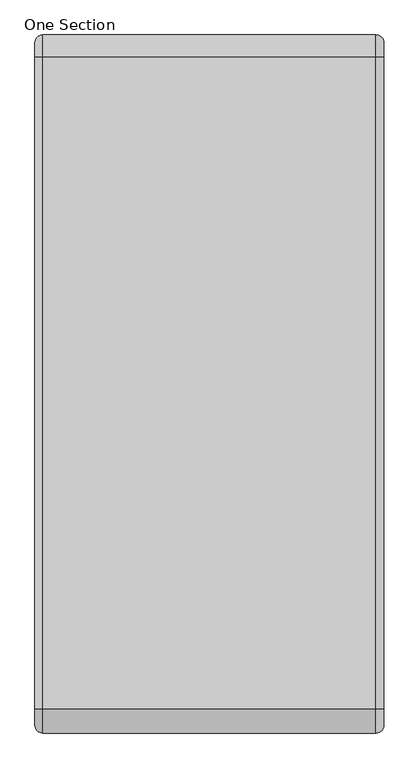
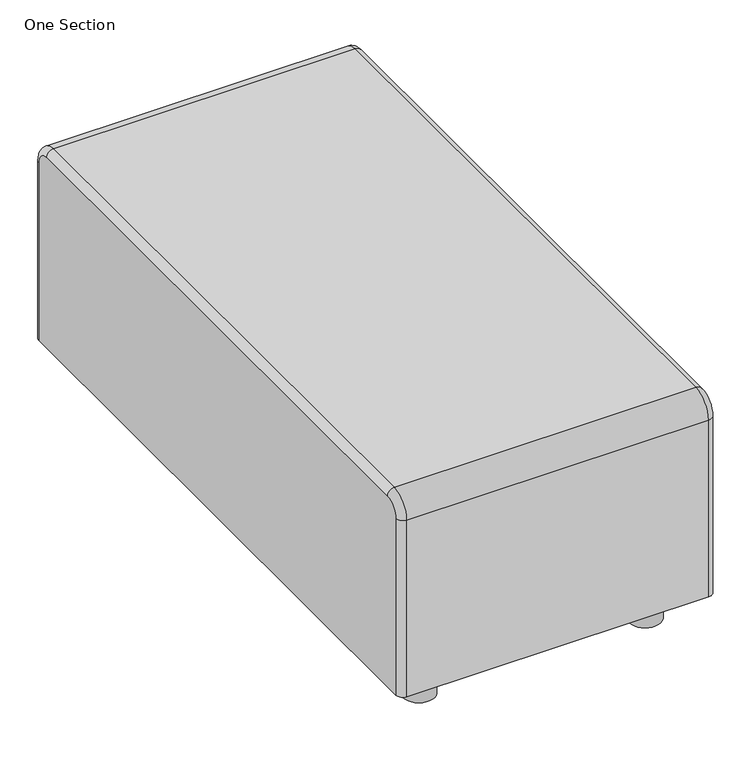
"""IFC4 building model written with IfcOpenShell, lengths in millimetres: furniture geometry, Coalesse_AM_Seating_Sofa_Await_ConnectorBench : One Section."""

import ifcopenshell
import ifcopenshell.guid

model = None  # the IFC model being written
_history = None  # IfcOwnerHistory: only IFC2X3 demands one
_inside = {}  # id of a spatial element -> (the spatial element, [elements in it])
_under = {}  # id of a project, library or spatial element -> (it, [spatial elements below it])
_declared = {}  # id of a project -> (the project, [libraries it declares])
_typed = {}  # id of a type object -> (the type object, [elements of that type])
_made_of = {}  # id of a material, layer set ... -> (it, [elements and type objects made of it])


def new_model(schema):
    """Start an empty IFC model of exactly this schema.

    Asked for "IFC4X3", IfcOpenShell would pick the latest addendum, in which some entities
    have other attributes; the version numbers below select the first issue.
    IFC2X3 requires an IfcOwnerHistory on every rooted entity: one is made here for all.
    """
    global model, _history
    if schema == "IFC4X3":
        model = ifcopenshell.file(schema_version=(4, 3, 0, 0))
    else:
        model = ifcopenshell.file(schema=schema)
    _inside.clear()
    _under.clear()
    _declared.clear()
    _typed.clear()
    _made_of.clear()
    _history = None
    if model.schema == "IFC2X3":
        org = make("IfcOrganization", Name="unknown")
        user = make(
            "IfcPersonAndOrganization",
            ThePerson=make("IfcPerson", FamilyName="unknown"),
            TheOrganization=org,
        )
        app = make(
            "IfcApplication",
            ApplicationDeveloper=org,
            Version="unknown",
            ApplicationFullName="unknown",
            ApplicationIdentifier="unknown",
        )
        _history = make(
            "IfcOwnerHistory",
            OwningUser=user,
            OwningApplication=app,
            ChangeAction="ADDED",
            CreationDate=0,
        )
    return model


def make(cls, **values):
    """One entity of the class cls with the attributes given. An attribute that is None is left unset."""
    return model.create_entity(
        cls, **{name: value for name, value in values.items() if value is not None}
    )


def rooted(cls, **values):
    """An entity with a GlobalId (a new one), such as an element, a storey or a relation."""
    return make(cls, GlobalId=ifcopenshell.guid.new(), OwnerHistory=_history, **values)


def si_unit(unit_type, name, prefix=None):
    """IfcSIUnit, for example si_unit("LENGTHUNIT", "METRE", prefix="MILLI")."""
    return make("IfcSIUnit", UnitType=unit_type, Prefix=prefix, Name=name)


def assignment(units):
    """IfcUnitAssignment: the units of a project."""
    return None if units is None else make("IfcUnitAssignment", Units=units)


def point(xyz):
    """IfcCartesianPoint."""
    return None if xyz is None else make("IfcCartesianPoint", Coordinates=xyz)


def direction(xyz):
    """IfcDirection."""
    return None if xyz is None else make("IfcDirection", DirectionRatios=xyz)


def frame(location, z_axis=None, x_axis=None):
    """IfcAxis2Placement3D, a coordinate frame: its origin and axes. An axis left out is left unset."""
    return make(
        "IfcAxis2Placement3D",
        Location=point(location),
        Axis=direction(z_axis),
        RefDirection=direction(x_axis),
    )


def frame_2d(location, x_axis=None):
    """IfcAxis2Placement2D, a coordinate frame in the plane: its origin and x axis."""
    return make(
        "IfcAxis2Placement2D", Location=point(location), RefDirection=direction(x_axis)
    )


def origin():
    """The frame at (0, 0, 0) with its axes left unset."""
    return frame((0.0, 0.0, 0.0))


def origin_with_axes():
    """The frame at (0, 0, 0) with the z axis (0, 0, 1) and the x axis (1, 0, 0) written out."""
    return frame((0.0, 0.0, 0.0), z_axis=(0.0, 0.0, 1.0), x_axis=(1.0, 0.0, 0.0))


def place(relative_to, where):
    """IfcLocalPlacement: puts the frame where relative to a parent placement (None: the world)."""
    return make(
        "IfcLocalPlacement", PlacementRelTo=relative_to, RelativePlacement=where
    )


def context(
    kind, dimensions, precision=None, world=None, true_north=None, identifier=None
):
    """IfcGeometricRepresentationContext, for example the 3D "Model" context."""
    return make(
        "IfcGeometricRepresentationContext",
        ContextIdentifier=identifier,
        ContextType=kind,
        CoordinateSpaceDimension=dimensions,
        Precision=precision,
        WorldCoordinateSystem=world,
        TrueNorth=true_north,
    )


def project(units=None, contexts=None):
    """IfcProject with its units and contexts."""
    return rooted(
        "IfcProject",
        Name="project",
        RepresentationContexts=contexts,
        UnitsInContext=assignment(units),
    )


def spatial(cls, under=None, at=None, **own):
    """A site, building, storey or space (cls), placed at a placement, below another one or the project."""
    s = rooted(cls, ObjectPlacement=at, **own)
    if under is not None:
        _under.setdefault(under.id(), (under, []))[1].append(s)
    return s


def circle_curve(where, radius):
    """IfcCircle in the frame where."""
    return make("IfcCircle", Position=where, Radius=radius)


def ellipse_curve(where, semi_axis1, semi_axis2):
    """IfcEllipse in the frame where."""
    return make(
        "IfcEllipse", Position=where, SemiAxis1=semi_axis1, SemiAxis2=semi_axis2
    )


def trimmed(basis, trim1, trim2, sense, master):
    """IfcTrimmedCurve: the piece of a basis curve between two trims."""
    return make(
        "IfcTrimmedCurve",
        BasisCurve=basis,
        Trim1=trim1,
        Trim2=trim2,
        SenseAgreement=sense,
        MasterRepresentation=master,
    )


def segment(curve, same_sense, transition):
    """IfcCompositeCurveSegment."""
    return make(
        "IfcCompositeCurveSegment",
        Transition=transition,
        SameSense=same_sense,
        ParentCurve=curve,
    )


def composite_curve(segments, self_intersect=None):
    """IfcCompositeCurve: segments joined end to end."""
    return make("IfcCompositeCurve", Segments=segments, SelfIntersect=self_intersect)


def outline(outer, holes=None, kind="AREA"):
    """IfcArbitraryClosedProfileDef: a profile drawn as a closed curve; with holes, ...WithVoids."""
    if holes is None:
        return make("IfcArbitraryClosedProfileDef", ProfileType=kind, OuterCurve=outer)
    return make(
        "IfcArbitraryProfileDefWithVoids",
        ProfileType=kind,
        OuterCurve=outer,
        InnerCurves=holes,
    )


def extrude(swept, where, along, depth):
    """IfcExtrudedAreaSolid: the profile swept, set in the frame where, extruded along a direction by depth."""
    return make(
        "IfcExtrudedAreaSolid",
        SweptArea=swept,
        Position=where,
        ExtrudedDirection=direction(along),
        Depth=depth,
    )


def shape(context_of_items, identifier, shape_type, items):
    """IfcShapeRepresentation: the items that make up one representation, for example the "Body"."""
    return make(
        "IfcShapeRepresentation",
        ContextOfItems=context_of_items,
        RepresentationIdentifier=identifier,
        RepresentationType=shape_type,
        Items=items,
    )


def source(mapping_origin, context_of_items, identifier, shape_type, items):
    """IfcRepresentationMap: a shape defined once, which mapped items show again and again."""
    return make(
        "IfcRepresentationMap",
        MappingOrigin=mapping_origin,
        MappedRepresentation=shape(context_of_items, identifier, shape_type, items),
    )


def transform(
    local_origin,
    x_axis=None,
    y_axis=None,
    z_axis=None,
    scale=None,
    scale2=None,
    scale3=None,
    uniform=True,
):
    """IfcCartesianTransformationOperator3D, or its non-uniform kind. x_axis, y_axis, z_axis: its Axis1, 2, 3."""
    if uniform:
        return make(
            "IfcCartesianTransformationOperator3D",
            Axis1=direction(x_axis),
            Axis2=direction(y_axis),
            LocalOrigin=point(local_origin),
            Scale=scale,
            Axis3=direction(z_axis),
        )
    return make(
        "IfcCartesianTransformationOperator3DnonUniform",
        Axis1=direction(x_axis),
        Axis2=direction(y_axis),
        LocalOrigin=point(local_origin),
        Scale=scale,
        Axis3=direction(z_axis),
        Scale2=scale2,
        Scale3=scale3,
    )


def mapped(mapping_source, mapping_target):
    """IfcMappedItem: shows the shape of a source again, moved by a transform."""
    return make(
        "IfcMappedItem", MappingSource=mapping_source, MappingTarget=mapping_target
    )


def made_of(thing, what):
    """Note that an element or type object is made of a material, layer set ...; save() writes the relation."""
    if what is not None:
        _made_of.setdefault(what.id(), (what, []))[1].append(thing)
    return thing


def element(
    cls,
    number,
    at=None,
    inside=None,
    cuts=None,
    type_object=None,
    material=None,
    context=None,
    identifier="Body",
    shape_type=None,
    held_by="IfcProductDefinitionShape",
    body=None,
    shapes=None,
    **own,
):
    """One element of the class cls, such as IfcWall. Its Tag is "e" and its number.

    at: its placement. inside: the storey or other place that contains it. cuts: it is an
    opening in that element (IfcRelVoidsElement). A single representation is given by context,
    identifier, shape_type and body (its items); several are given by shapes. held_by: the class
    of the entity that holds the representations. save() writes the other relations.
    """
    e = rooted(cls, Tag="e%d" % number, ObjectPlacement=at, **own)
    if body is not None:
        shapes = [shape(context, identifier, shape_type, body)]
    if shapes is not None:
        e.Representation = make(held_by, Representations=shapes)
    if inside is not None:
        _inside.setdefault(inside.id(), (inside, []))[1].append(e)
    if cuts is not None:
        rooted(
            "IfcRelVoidsElement", RelatingBuildingElement=cuts, RelatedOpeningElement=e
        )
    if type_object is not None:
        _typed.setdefault(type_object.id(), (type_object, []))[1].append(e)
    return made_of(e, material)


def aggregate(whole, parts):
    """IfcRelAggregates: a whole, such as a stair, and the parts it consists of."""
    return rooted("IfcRelAggregates", RelatingObject=whole, RelatedObjects=parts)


def save(model, path):
    """Write the relations noted so far, then the file.

    IfcRelAggregates (storeys below a building ...), IfcRelContainedInSpatialStructure (elements
    in a storey), IfcRelDefinesByType, IfcRelAssociatesMaterial and IfcRelDeclares: one each for
    every whole, place, type object, material and project.
    """
    for whole, parts in _under.values():
        aggregate(whole, parts)
    for where, things in _inside.values():
        rooted(
            "IfcRelContainedInSpatialStructure",
            RelatedElements=things,
            RelatingStructure=where,
        )
    for kind, things in _typed.values():
        rooted("IfcRelDefinesByType", RelatedObjects=things, RelatingType=kind)
    for what, things in _made_of.values():
        rooted("IfcRelAssociatesMaterial", RelatedObjects=things, RelatingMaterial=what)
    for by, libraries in _declared.values():
        rooted("IfcRelDeclares", RelatingContext=by, RelatedDefinitions=libraries)
    model.write(path)


def plane_surface(at):
    """IfcPlane: the flat surface through the origin of the frame at, square to its z axis."""
    return make("IfcPlane", Position=at)


def cylinder_surface(at, radius):
    """IfcCylindricalSurface: all points at the distance radius from the z axis of the frame at."""
    return make("IfcCylindricalSurface", Position=at, Radius=radius)


def revolved_surface(curve, axis_point, axis_direction):
    """IfcSurfaceOfRevolution: the curve turned about the line through axis_point along axis_direction."""
    return make(
        "IfcSurfaceOfRevolution",
        SweptCurve=make("IfcArbitraryOpenProfileDef", ProfileType="CURVE", Curve=curve),
        AxisPosition=make("IfcAxis1Placement", Location=point(axis_point), Axis=direction(axis_direction)),
    )


def advanced_brep(points, edges, surfaces, faces):
    """IfcAdvancedBrep: a solid bounded by faces that lie on surfaces and meet in shared edges.

    An edge is (start, end): straight between two places in points (the first is 0);
    or (start, end, curve); or (start, end, curve, False) where it runs against its curve.
    A face is (place in surfaces, loops), or (place, loops, False) where it looks against
    its surface's normal. A loop lists edges by number (the first is 1), with a minus sign
    where the edge is run from its end to its start. The first loop is the outer one.
    """
    corners = [point(p) for p in points]
    vertices = [make("IfcVertexPoint", VertexGeometry=c) for c in corners]
    made = []
    for start, end, *more in edges:
        made.append(
            make(
                "IfcEdgeCurve",
                EdgeStart=vertices[start],
                EdgeEnd=vertices[end],
                EdgeGeometry=more[0] if more else make("IfcPolyline", Points=[corners[start], corners[end]]),
                SameSense=more[1] if len(more) > 1 else True,
            )
        )
    hull = []
    for where, loops, *sense in faces:
        bounds = []
        for j, loop in enumerate(loops):
            ring = [make("IfcOrientedEdge", EdgeElement=made[abs(k) - 1], Orientation=k > 0) for k in loop]
            bounds.append(
                make(
                    "IfcFaceOuterBound" if j == 0 else "IfcFaceBound",
                    Bound=make("IfcEdgeLoop", EdgeList=ring),
                    Orientation=True,
                )
            )
        hull.append(make("IfcAdvancedFace", Bounds=bounds, FaceSurface=surfaces[where], SameSense=sense[0] if sense else True))
    return make("IfcAdvancedBrep", Outer=make("IfcClosedShell", CfsFaces=hull))


def one_section_4a29e20e(model_context):
    return source(origin(), model_context, "Body", "SolidModel", [
        advanced_brep(
        [(-663.917922, 393.3623127, 63.5), (-651.3345928, 405.9456418, 63.5), (-117.9113776, 405.9456418, 63.5), (-105.1179159, 393.1521801, 63.5), (-105.1179159, -698.8608965, 63.5), (-117.9113776, -711.6543582, 63.5), (-651.3345928, -711.6543582, 63.5), (-663.917922, -699.071029, 63.5), (-663.917922, -699.071029, 393.6999879), (-663.917922, -673.5543582, 419.2166587), (-663.917922, 370.1950719, 419.2166587), (-663.917922, 393.3623127, 396.049418), (-105.1179159, 393.1521801, 396.049418), (-105.1179159, 370.1950719, 419.0065262), (-105.1179159, -673.5543582, 419.0065262), (-105.1179159, -698.8608965, 393.6999879), (-117.9113776, -711.6543582, 393.6999879), (-651.3345928, -711.6543582, 393.6999879), (-117.9113776, -673.5543582, 431.7999879), (-651.3345928, -673.5543582, 431.7999879), (-117.9113776, 370.1950719, 431.7999879), (-651.3345928, 370.1950719, 431.7999879), (-117.9113776, 405.9456418, 396.049418), (-651.3345928, 405.9456418, 396.049418)],
        [
            (0, 1, circle_curve(frame((-651.3345928, 393.3623127, 63.5), z_axis=(0.0, 0.0, -1.0), x_axis=(0.0, 1.0, 0.0)), 12.5833292)),
            (1, 2),
            (2, 3, circle_curve(frame((-117.9113776, 393.1521801, 63.5), z_axis=(0.0, 0.0, -1.0), x_axis=(0.0, 1.0, 0.0)), 12.7934617)),
            (3, 4),
            (4, 5, circle_curve(frame((-117.9113776, -698.8608965, 63.5), z_axis=(0.0, 0.0, -1.0), x_axis=(0.0, -1.0, 0.0)), 12.7934617)),
            (5, 6),
            (6, 7, circle_curve(frame((-651.3345928, -699.071029, 63.5), z_axis=(0.0, 0.0, -1.0), x_axis=(0.0, -1.0, 0.0)), 12.5833292)),
            (7, 0),
            (7, 8),
            (8, 9, circle_curve(frame((-663.917922, -673.5543582, 393.6999879), z_axis=(-1.0, 0.0, 0.0), x_axis=(0.0, -1.0, 0.0)), 25.5166708)),
            (9, 10),
            (10, 11, circle_curve(frame((-663.917922, 370.1950719, 396.049418), z_axis=(-1.0, 0.0, 0.0), x_axis=(0.0, 0.0, 1.0)), 23.1672407)),
            (11, 0),
            (3, 12),
            (12, 13, circle_curve(frame((-105.1179159, 370.1950719, 396.049418), z_axis=(1.0, 0.0, 0.0), x_axis=(0.0, 0.0, 1.0)), 22.9571082)),
            (13, 14),
            (14, 15, circle_curve(frame((-105.1179159, -673.5543582, 393.6999879), z_axis=(1.0, 0.0, 0.0), x_axis=(0.0, -1.0, 0.0)), 25.3065383)),
            (15, 4),
            (15, 16, circle_curve(frame((-117.9113776, -698.8608965, 393.6999879), z_axis=(0.0, 0.0, -1.0), x_axis=(0.0, -1.0, 0.0)), 12.7934617)),
            (16, 5),
            (16, 17),
            (17, 6),
            (17, 8, circle_curve(frame((-651.3345928, -699.071029, 393.6999879), z_axis=(0.0, 0.0, -1.0), x_axis=(0.0, -1.0, 0.0)), 12.5833292)),
            (14, 18, circle_curve(frame((-117.9113776, -673.5543582, 419.0065262), z_axis=(0.0, -1.0, 0.0), x_axis=(0.0, 0.0, 1.0)), 12.7934617)),
            (18, 16, circle_curve(frame((-117.9113776, -673.5543582, 393.6999879), z_axis=(1.0, 0.0, 0.0), x_axis=(0.0, -1.0, 0.0)), 38.1)),
            (18, 19),
            (19, 17, circle_curve(frame((-651.3345928, -673.5543582, 393.6999879), z_axis=(1.0, 0.0, 0.0), x_axis=(0.0, -1.0, 0.0)), 38.1)),
            (19, 9, circle_curve(frame((-651.3345928, -673.5543582, 419.2166587), z_axis=(0.0, -1.0, 0.0), x_axis=(0.0, 0.0, 1.0)), 12.5833292)),
            (13, 20, circle_curve(frame((-117.9113776, 370.1950719, 419.0065262), z_axis=(0.0, -1.0, 0.0), x_axis=(0.0, 0.0, 1.0)), 12.7934617)),
            (20, 18),
            (20, 21),
            (21, 19),
            (21, 10, circle_curve(frame((-651.3345928, 370.1950719, 419.2166587), z_axis=(0.0, -1.0, 0.0), x_axis=(0.0, 0.0, 1.0)), 12.5833292)),
            (12, 22, circle_curve(frame((-117.9113776, 393.1521801, 396.049418), z_axis=(0.0, 0.0, 1.0), x_axis=(0.0, 1.0, 0.0)), 12.7934617)),
            (22, 20, circle_curve(frame((-117.9113776, 370.1950719, 396.049418), z_axis=(1.0, 0.0, 0.0), x_axis=(0.0, 0.0, 1.0)), 35.7505699)),
            (22, 23),
            (23, 21, circle_curve(frame((-651.3345928, 370.1950719, 396.049418), z_axis=(1.0, 0.0, 0.0), x_axis=(0.0, 0.0, 1.0)), 35.7505699)),
            (23, 11, circle_curve(frame((-651.3345928, 393.3623127, 396.049418), z_axis=(0.0, 0.0, 1.0), x_axis=(0.0, 1.0, 0.0)), 12.5833292)),
            (2, 22),
            (1, 23),
        ],
        [
            plane_surface(frame((0.0, -686.2543582, 63.5), z_axis=(0.0, 0.0, -1.0), x_axis=(1.0, 0.0, 0.0))),
            plane_surface(frame((-663.917922, -699.071029, 63.5), z_axis=(-1.0, 0.0, 0.0), x_axis=(0.0, 0.0, 1.0))),
            plane_surface(frame((-105.1179159, -686.2543582, 63.5), z_axis=(1.0, 0.0, 0.0), x_axis=(0.0, 0.0, 1.0))),
            cylinder_surface(frame((-117.9113776, -698.8608965, 63.5), z_axis=(0.0, 0.0, -1.0), x_axis=(0.0, -1.0, 0.0)), 12.7934617),
            plane_surface(frame((-117.9113776, -711.6543582, 63.5), z_axis=(0.0, -1.0, 0.0), x_axis=(0.0, 0.0, 1.0))),
            cylinder_surface(frame((-651.3345928, -699.071029, 63.5), z_axis=(0.0, 0.0, -1.0), x_axis=(0.0, -1.0, 0.0)), 12.5833292),
            revolved_surface(trimmed(ellipse_curve(frame((-117.9113776, -698.8608965, 393.6999879), z_axis=(0.0, 0.0, -1.0), x_axis=(0.0, -1.0, 0.0)), 12.7934617, 12.7934617), [point((-105.1179159, -698.8608965, 393.6999879))], [point((-117.9113776, -711.6543582, 393.6999879))], True, "CARTESIAN"), (0.0, -673.5543582, 393.6999879), (-1.0, 0.0, 0.0)),
            cylinder_surface(frame((0.0, -673.5543582, 393.6999879), z_axis=(-1.0, 0.0, 0.0), x_axis=(0.0, -1.0, 0.0)), 38.1),
            revolved_surface(trimmed(ellipse_curve(frame((-651.3345928, -699.071029, 393.6999879), z_axis=(0.0, 0.0, -1.0), x_axis=(0.0, -1.0, 0.0)), 12.5833292, 12.5833292), [point((-651.3345928, -711.6543582, 393.6999879))], [point((-663.917922, -699.071029, 393.6999879))], True, "CARTESIAN"), (0.0, -673.5543582, 393.6999879), (-1.0, 0.0, 0.0)),
            cylinder_surface(frame((-117.9113776, -673.5543582, 419.0065262), z_axis=(0.0, -1.0, 0.0), x_axis=(0.0, 0.0, 1.0)), 12.7934617),
            plane_surface(frame((-117.9113776, -673.5543582, 431.7999879), z_axis=(0.0, 0.0, 1.0), x_axis=(0.0, 1.0, 0.0))),
            cylinder_surface(frame((-651.3345928, -673.5543582, 419.2166587), z_axis=(0.0, -1.0, 0.0), x_axis=(0.0, 0.0, 1.0)), 12.5833292),
            revolved_surface(trimmed(ellipse_curve(frame((-117.9113776, 370.1950719, 419.0065262), z_axis=(0.0, -1.0, 0.0), x_axis=(0.0, 0.0, 1.0)), 12.7934617, 12.7934617), [point((-105.1179159, 370.1950719, 419.0065262))], [point((-117.9113776, 370.1950719, 431.7999879))], True, "CARTESIAN"), (0.0, 370.1950719, 396.049418), (-1.0, 0.0, 0.0)),
            cylinder_surface(frame((0.0, 370.1950719, 396.049418), z_axis=(-1.0, 0.0, 0.0), x_axis=(0.0, 0.0, 1.0)), 35.7505699),
            revolved_surface(trimmed(ellipse_curve(frame((-651.3345928, 370.1950719, 419.2166587), z_axis=(0.0, -1.0, 0.0), x_axis=(0.0, 0.0, 1.0)), 12.5833292, 12.5833292), [point((-651.3345928, 370.1950719, 431.7999879))], [point((-663.917922, 370.1950719, 419.2166587))], True, "CARTESIAN"), (0.0, 370.1950719, 396.049418), (-1.0, 0.0, 0.0)),
            cylinder_surface(frame((-117.9113776, 393.1521801, 396.049418), z_axis=(0.0, 0.0, 1.0), x_axis=(0.0, 1.0, 0.0)), 12.7934617),
            plane_surface(frame((-117.9113776, 405.9456418, 396.049418), z_axis=(0.0, 1.0, 0.0), x_axis=(0.0, 0.0, -1.0))),
            cylinder_surface(frame((-651.3345928, 393.3623127, 396.049418), z_axis=(0.0, 0.0, 1.0), x_axis=(0.0, 1.0, 0.0)), 12.5833292),
        ],
        [
            (0, [[1, 2, 3, 4, 5, 6, 7, 8]]),
            (1, [[-8, 9, 10, 11, 12, 13]]),
            (2, [[-4, 14, 15, 16, 17, 18]]),
            (3, [[-5, -18, 19, 20]]),
            (4, [[-6, -20, 21, 22]]),
            (5, [[-7, -22, 23, -9]]),
            (6, [[-17, 24, 25, -19]]),
            (7, [[-21, -25, 26, 27]]),
            (8, [[-10, -23, -27, 28]]),
            (9, [[-16, 29, 30, -24]]),
            (10, [[-26, -30, 31, 32]]),
            (11, [[-11, -28, -32, 33]]),
            (12, [[-15, 34, 35, -29]]),
            (13, [[-31, -35, 36, 37]]),
            (14, [[-12, -33, -37, 38]]),
            (15, [[-14, -3, 39, -34]]),
            (16, [[-36, -39, -2, 40]]),
            (17, [[-13, -38, -40, -1]]),
        ],
    ),
        extrude(outline(composite_curve([segment(trimmed(circle_curve(frame_2d((-584.4783622, -631.9867521)), 27.94), [point((-612.4183622, -631.9867521))], [point((-556.5383622, -631.9867521))], False, "CARTESIAN"), True, "CONTINUOUS"), segment(trimmed(circle_curve(frame_2d((-584.4783622, -631.9867521)), 27.94), [point((-556.5383622, -631.9867521))], [point((-612.4183622, -631.9867521))], False, "CARTESIAN"), True, "CONTINUOUS")], self_intersect=False)), origin_with_axes(), (0.0, 0.0, 1.0), 63.5),
        extrude(outline(composite_curve([segment(trimmed(circle_curve(frame_2d((-584.4783622, 326.8632479)), 27.94), [point((-612.4183622, 326.8632479))], [point((-556.5383622, 326.8632479))], False, "CARTESIAN"), True, "CONTINUOUS"), segment(trimmed(circle_curve(frame_2d((-584.4783622, 326.8632479)), 27.94), [point((-556.5383622, 326.8632479))], [point((-612.4183622, 326.8632479))], False, "CARTESIAN"), True, "CONTINUOUS")], self_intersect=False)), origin_with_axes(), (0.0, 0.0, 1.0), 63.5),
        extrude(outline(composite_curve([segment(trimmed(circle_curve(frame_2d((-184.4283622, -631.9867521)), 27.94), [point((-212.3683622, -631.9867521))], [point((-156.4883622, -631.9867521))], False, "CARTESIAN"), True, "CONTINUOUS"), segment(trimmed(circle_curve(frame_2d((-184.4283622, -631.9867521)), 27.94), [point((-156.4883622, -631.9867521))], [point((-212.3683622, -631.9867521))], False, "CARTESIAN"), True, "CONTINUOUS")], self_intersect=False)), origin_with_axes(), (0.0, 0.0, 1.0), 63.5),
        extrude(outline(composite_curve([segment(trimmed(circle_curve(frame_2d((-184.4283622, 326.8632479)), 27.94), [point((-212.3683622, 326.8632479))], [point((-156.4883622, 326.8632479))], False, "CARTESIAN"), True, "CONTINUOUS"), segment(trimmed(circle_curve(frame_2d((-184.4283622, 326.8632479)), 27.94), [point((-156.4883622, 326.8632479))], [point((-212.3683622, 326.8632479))], False, "CARTESIAN"), True, "CONTINUOUS")], self_intersect=False)), origin_with_axes(), (0.0, 0.0, 1.0), 63.5),
    ])


if __name__ == "__main__":
    model = new_model("IFC4")
    model_context = context("Model", 3, world=origin())
    ifc_project = project(units=[si_unit("LENGTHUNIT", "METRE", prefix="MILLI")], contexts=[model_context])
    site = spatial("IfcSite", under=ifc_project)
    building = spatial("IfcBuilding", under=site)
    placement = place(None, origin())
    one_section_shape = one_section_4a29e20e(model_context)
    element("IfcFurniture", 1, ObjectType="Coalesse_AM_Seating_Sofa_Await_ConnectorBench : One Section", at=placement, inside=building, context=model_context, shape_type="MappedRepresentation", body=[
        mapped(one_section_shape, transform((0.0, 0.0, 0.0), x_axis=(1.0, 0.0, 0.0), y_axis=(0.0, 1.0, 0.0), z_axis=(0.0, 0.0, 1.0))),
    ])
    save(model, "model.ifc")
